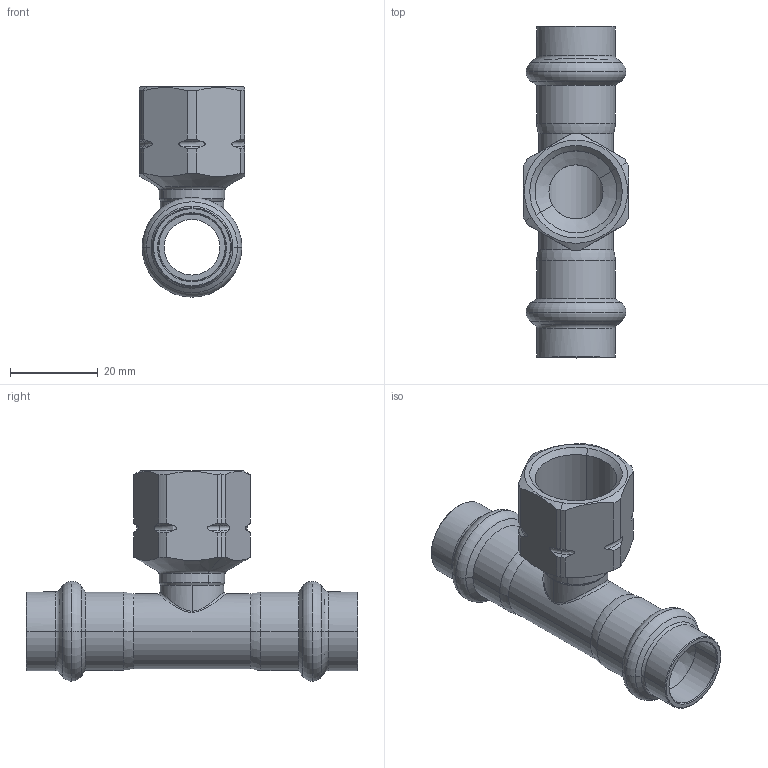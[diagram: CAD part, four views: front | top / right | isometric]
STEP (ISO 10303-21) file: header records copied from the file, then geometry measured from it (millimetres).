
FILE_DESCRIPTION(('CoCreate Modeling STEP Export'),'2;1');
FILE_NAME('8130GVW151215.stp','2013-01-31T15:19:03',(''),(''),'CoCreate Modeling STEP processor for AP214 (Solid Model)','CoCreate Modeling 17.00A 17-Jun-2010 (C) Parametric Technology GmbH','');
FILE_SCHEMA(('AUTOMOTIVE_DESIGN { 1 0 10303 214 1 1 1 1 }'));
Length unit declared in the file: millimetre
Products named in the file (1): 8130GVW151215
Bounding box: 24 x 75.51 x 47.85 mm (x, y, z)
Volume: 11622.1 mm3; surface area: 12230.5 mm2
Topology: 1 solids, 1 shells, 152 faces, 356 edges, 212 vertices
Faces by surface type: cylinder 50, cone 46, torus 38, plane 14, bspline 4
Entity records: 10148 total; most frequent: CARTESIAN_POINT 7283, ORIENTED_EDGE 712, DIRECTION 442, EDGE_CURVE 356, VERTEX_POINT 212, AXIS2_PLACEMENT_3D 179, EDGE_LOOP 162, FACE_OUTER_BOUND 152
